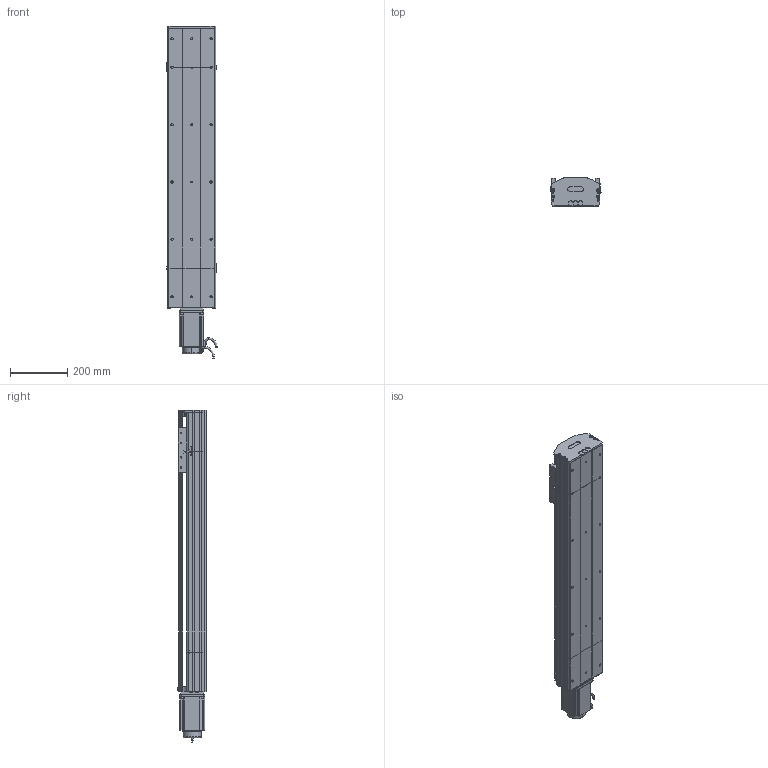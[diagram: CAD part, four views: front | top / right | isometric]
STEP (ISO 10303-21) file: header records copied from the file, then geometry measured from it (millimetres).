
FILE_DESCRIPTION (( 'STEP AP214' ), '1' );
FILE_NAME ('D17 TSH MD S700.STEP', '2010-06-30T06:44:27', ( 'Christophe Gaillard' ), ( 'SGA' ), 'SwSTEP 2.0', 'SolidWorks 2010', '' );
FILE_SCHEMA (( 'AUTOMOTIVE_DESIGN' ));
Length unit declared in the file: millimetre
Products named in the file (31): vis M5 L8 90°_Default; head MD_Default; Conecteur_Default; Conecteur2_Default; codeur 90BLDC125-640; corps 90BLDC125A-640; avant 90BLDC125A-640; Moteur motionking 90BLDC125A-640; vis M5 L5_Default; Arbre+rail head D17; plaque de  bout head D17_Default; couvercle D17 head_Default; corpl head D17 MD_Default; vis M5 L25_Default; guide D17; Chariot D17; chariot D17S_Default; vis M5 L12_Default; Vis M5 L16-2_Default; arbre + rail D17 Course 700 ; course 700 D17_Default; D17 TSH MD S700; Tail D17+L100_Default; couvercle D17 course L700_Default; corp D17 700_Default; tete d''axe bas D17; plaque de  bout tail D17_Default; corpl tail D17+L100_Default; couvercle D17_Default; Arbre+rail tail D17; tete d''axe haut D17
Assembly tree (50 placements, depth 4):
  D17 TSH MD S700
    Tail D17+L100_Default
      vis M5 L12_Default  x4
      corpl tail D17+L100_Default
      vis M5 L25_Default  x2
      vis M5 L8 90°_Default  x2
      tete d''axe haut D17
      couvercle D17_Default
      Arbre+rail tail D17
      tete d''axe bas D17
      plaque de  bout tail D17_Default
    head MD_Default
      corpl head D17 MD_Default
      Vis M5 L16-2_Default  x4
      vis M5 L12_Default  x6
      vis M5 L5_Default  x2
      Moteur motionking 90BLDC125A-640
        Conecteur_Default
        codeur 90BLDC125-640
        corps 90BLDC125A-640
        Conecteur2_Default
        avant 90BLDC125A-640
      couvercle D17 head_Default
      Arbre+rail head D17
      plaque de  bout head D17_Default
    course 700 D17_Default
      arbre + rail D17 Course 700 
      corp D17 700_Default
      couvercle D17 course L700_Default
    chariot D17S_Default
      Chariot D17
      vis M5 L12_Default  x4
      guide D17  x2
Bounding box: 174.95 x 99.7 x 1157.5 mm (x, y, z)
Volume: 6798739.2 mm3; surface area: 1709651.2 mm2
Topology: 75 solids, 75 shells, 2108 faces, 5346 edges, 3466 vertices
Faces by surface type: plane 1323, cylinder 536, bspline 136, torus 57, cone 56
Entity records: 70660 total; most frequent: CARTESIAN_POINT 22371, ORIENTED_EDGE 8508, DIRECTION 7871, EDGE_CURVE 4254, VECTOR 2987, LINE 2987, VERTEX_POINT 2802, AXIS2_PLACEMENT_3D 2442
